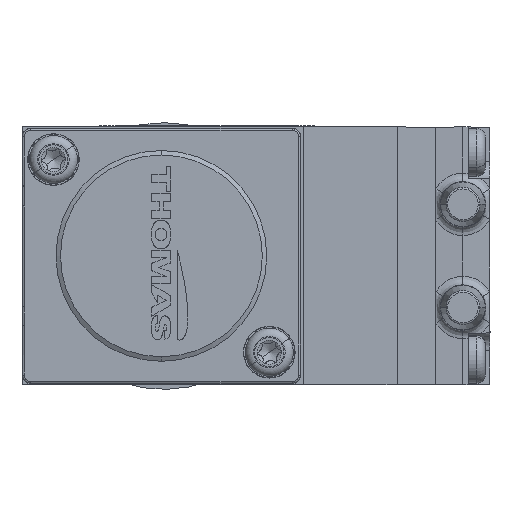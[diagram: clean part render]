
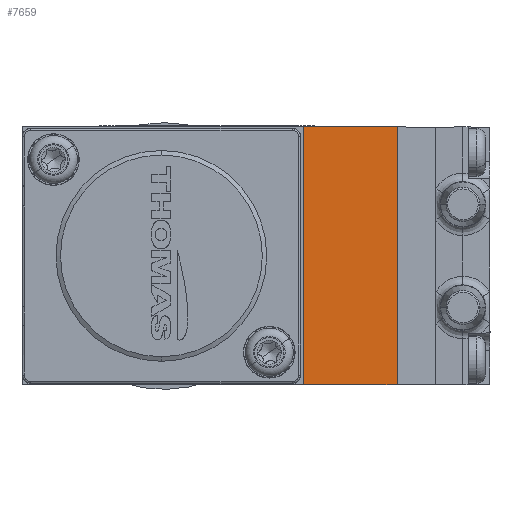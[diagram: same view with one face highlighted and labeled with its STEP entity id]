
A CAD part, left-side view. The second image highlights one B-rep face of the part: STEP entity #7659.
In plain terms, the highlighted planar face has unit normal (-1, 0, 0).
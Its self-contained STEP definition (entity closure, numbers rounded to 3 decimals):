
#372 = CARTESIAN_POINT ( 'NONE',  ( -21., -16.225, -15. ) ) ;
#821 = LINE ( 'NONE', #12287, #23816 ) ;
#1355 = CARTESIAN_POINT ( 'NONE',  ( -21., -27.1, -15. ) ) ;
#1550 = FACE_OUTER_BOUND ( 'NONE', #27573, .T. ) ;
#2933 = VECTOR ( 'NONE', #14282, 1000. ) ;
#4520 = VECTOR ( 'NONE', #18475, 1000. ) ;
#4579 = DIRECTION ( 'NONE',  ( -1., 0., 0. ) ) ;
#5879 = EDGE_CURVE ( 'NONE', #21377, #18647, #10622, .T. ) ;
#7016 = EDGE_CURVE ( 'NONE', #20053, #30375, #24551, .T. ) ;
#7659 = ADVANCED_FACE ( 'NONE', ( #1550 ), #31843, .T. ) ;
#9741 = ORIENTED_EDGE ( 'NONE', *, *, #37159, .T. ) ;
#10396 = DIRECTION ( 'NONE',  ( 0., 0., -1. ) ) ;
#10622 = LINE ( 'NONE', #372, #4520 ) ;
#12287 = CARTESIAN_POINT ( 'NONE',  ( -21., -16.2, 15. ) ) ;
#14282 = DIRECTION ( 'NONE',  ( 0., -1., 0. ) ) ;
#17563 = VECTOR ( 'NONE', #10396, 1000. ) ;
#18197 = ORIENTED_EDGE ( 'NONE', *, *, #5879, .T. ) ;
#18406 = ORIENTED_EDGE ( 'NONE', *, *, #25180, .F. ) ;
#18426 = AXIS2_PLACEMENT_3D ( 'NONE', #31311, #4579, #22542 ) ;
#18475 = DIRECTION ( 'NONE',  ( 0., 0., -1. ) ) ;
#18532 = ORIENTED_EDGE ( 'NONE', *, *, #7016, .F. ) ;
#18647 = VERTEX_POINT ( 'NONE', #32561 ) ;
#19991 = CARTESIAN_POINT ( 'NONE',  ( -21., -16.225, 15. ) ) ;
#20053 = VERTEX_POINT ( 'NONE', #38558 ) ;
#21377 = VERTEX_POINT ( 'NONE', #19991 ) ;
#21681 = CARTESIAN_POINT ( 'NONE',  ( -21., -27.1, -15. ) ) ;
#22542 = DIRECTION ( 'NONE',  ( 0., 1., 0. ) ) ;
#23816 = VECTOR ( 'NONE', #30508, 1000. ) ;
#24551 = LINE ( 'NONE', #1355, #17563 ) ;
#25180 = EDGE_CURVE ( 'NONE', #21377, #20053, #821, .T. ) ;
#26694 = CARTESIAN_POINT ( 'NONE',  ( -21., -16.2, -15. ) ) ;
#27573 = EDGE_LOOP ( 'NONE', ( #18532, #18406, #18197, #9741 ) ) ;
#30111 = LINE ( 'NONE', #26694, #2933 ) ;
#30375 = VERTEX_POINT ( 'NONE', #21681 ) ;
#30508 = DIRECTION ( 'NONE',  ( 0., -1., 0. ) ) ;
#31311 = CARTESIAN_POINT ( 'NONE',  ( -21., -16.2, -15. ) ) ;
#31843 = PLANE ( 'NONE',  #18426 ) ;
#32561 = CARTESIAN_POINT ( 'NONE',  ( -21., -16.225, -15. ) ) ;
#37159 = EDGE_CURVE ( 'NONE', #18647, #30375, #30111, .T. ) ;
#38558 = CARTESIAN_POINT ( 'NONE',  ( -21., -27.1, 15. ) ) ;
